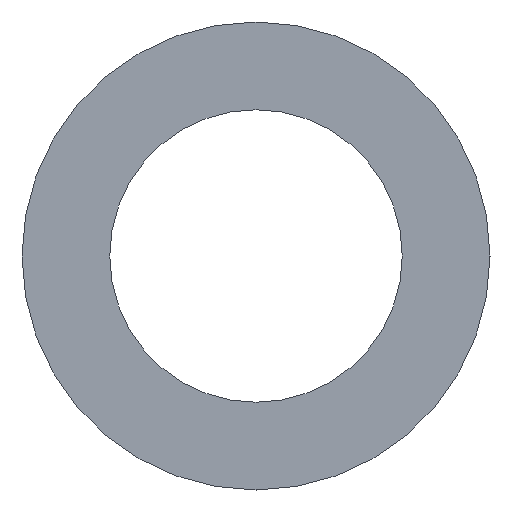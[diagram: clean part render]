
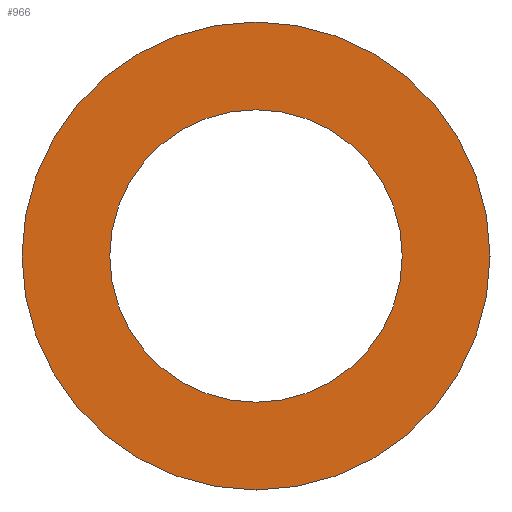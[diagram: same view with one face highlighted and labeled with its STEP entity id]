
A CAD part, front view. The second image highlights one B-rep face of the part: STEP entity #966.
In plain terms, the highlighted planar face has unit normal (0, -1, 0).
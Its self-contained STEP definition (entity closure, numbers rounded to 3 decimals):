
#51 = CARTESIAN_POINT ( 'NONE',  ( 0., -16.5, 0. ) ) ;
#76 = CARTESIAN_POINT ( 'NONE',  ( 0., -16.5, 25. ) ) ;
#175 = CIRCLE ( 'NONE', #2395, 25. ) ;
#213 = CIRCLE ( 'NONE', #2505, 40. ) ;
#309 = EDGE_CURVE ( 'NONE', #2423, #1322, #175, .T. ) ;
#353 = DIRECTION ( 'NONE',  ( 0., 0., -1. ) ) ;
#380 = CIRCLE ( 'NONE', #2306, 25. ) ;
#397 = EDGE_CURVE ( 'NONE', #2927, #2303, #213, .T. ) ;
#558 = DIRECTION ( 'NONE',  ( 0., 0., -1. ) ) ;
#612 = DIRECTION ( 'NONE',  ( 0., 1., 0. ) ) ;
#628 = CARTESIAN_POINT ( 'NONE',  ( 0., -16.5, 40. ) ) ;
#761 = ORIENTED_EDGE ( 'NONE', *, *, #2123, .F. ) ;
#834 = CARTESIAN_POINT ( 'NONE',  ( 0., -16.5, 25. ) ) ;
#966 = ADVANCED_FACE ( 'NONE', ( #3037, #3194 ), #3132, .F. ) ;
#973 = CARTESIAN_POINT ( 'NONE',  ( 0., -16.5, 0. ) ) ;
#1076 = DIRECTION ( 'NONE',  ( 0., 0., -1. ) ) ;
#1237 = ORIENTED_EDGE ( 'NONE', *, *, #3281, .T. ) ;
#1301 = CARTESIAN_POINT ( 'NONE',  ( 0., -16.5, 0. ) ) ;
#1321 = DIRECTION ( 'NONE',  ( 0., -1., 0. ) ) ;
#1322 = VERTEX_POINT ( 'NONE', #2083 ) ;
#1725 = ORIENTED_EDGE ( 'NONE', *, *, #309, .F. ) ;
#1735 = AXIS2_PLACEMENT_3D ( 'NONE', #834, #612, #2115 ) ;
#1959 = AXIS2_PLACEMENT_3D ( 'NONE', #3179, #2414, #353 ) ;
#2083 = CARTESIAN_POINT ( 'NONE',  ( 0., -16.5, -25. ) ) ;
#2115 = DIRECTION ( 'NONE',  ( 0., 0., 1. ) ) ;
#2123 = EDGE_CURVE ( 'NONE', #1322, #2423, #380, .T. ) ;
#2246 = DIRECTION ( 'NONE',  ( 0., 0., -1. ) ) ;
#2290 = CARTESIAN_POINT ( 'NONE',  ( 0., -16.5, -40. ) ) ;
#2303 = VERTEX_POINT ( 'NONE', #2290 ) ;
#2306 = AXIS2_PLACEMENT_3D ( 'NONE', #973, #2996, #2246 ) ;
#2355 = DIRECTION ( 'NONE',  ( 0., -1., 0. ) ) ;
#2395 = AXIS2_PLACEMENT_3D ( 'NONE', #1301, #1321, #558 ) ;
#2414 = DIRECTION ( 'NONE',  ( 0., -1., 0. ) ) ;
#2423 = VERTEX_POINT ( 'NONE', #76 ) ;
#2505 = AXIS2_PLACEMENT_3D ( 'NONE', #51, #2355, #1076 ) ;
#2628 = EDGE_LOOP ( 'NONE', ( #761, #1725 ) ) ;
#2720 = CIRCLE ( 'NONE', #1959, 40. ) ;
#2927 = VERTEX_POINT ( 'NONE', #628 ) ;
#2996 = DIRECTION ( 'NONE',  ( 0., -1., 0. ) ) ;
#3037 = FACE_BOUND ( 'NONE', #2628, .T. ) ;
#3132 = PLANE ( 'NONE',  #1735 ) ;
#3169 = ORIENTED_EDGE ( 'NONE', *, *, #397, .T. ) ;
#3179 = CARTESIAN_POINT ( 'NONE',  ( 0., -16.5, 0. ) ) ;
#3194 = FACE_OUTER_BOUND ( 'NONE', #3258, .T. ) ;
#3258 = EDGE_LOOP ( 'NONE', ( #1237, #3169 ) ) ;
#3281 = EDGE_CURVE ( 'NONE', #2303, #2927, #2720, .T. ) ;
